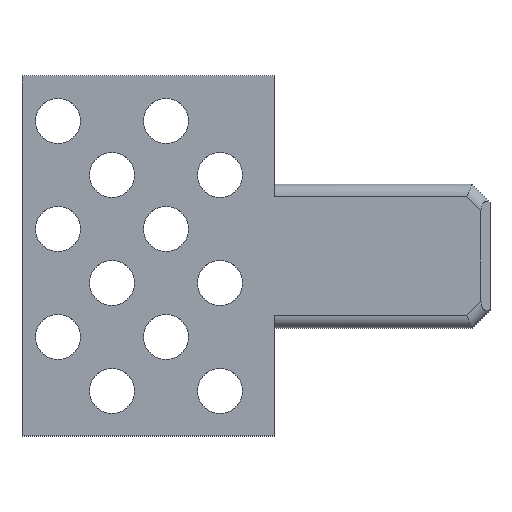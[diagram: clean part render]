
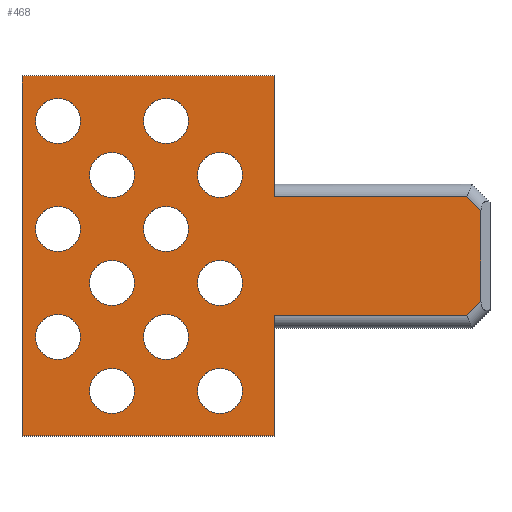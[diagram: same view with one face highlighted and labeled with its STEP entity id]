
A CAD part, top view. The second image highlights one B-rep face of the part: STEP entity #468.
In plain terms, the highlighted planar face has unit normal (0, 0, 1).
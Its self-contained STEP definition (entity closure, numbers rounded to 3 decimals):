
#113 = VERTEX_POINT('',#114);
#114 = CARTESIAN_POINT('',(10.71,-3.3,1.2));
#121 = EDGE_CURVE('',#113,#122,#124,.T.);
#122 = VERTEX_POINT('',#123);
#123 = CARTESIAN_POINT('',(11.5,-2.51,1.2));
#124 = LINE('',#125,#126);
#125 = CARTESIAN_POINT('',(10.505,-3.505,1.2));
#126 = VECTOR('',#127,1.);
#127 = DIRECTION('',(0.707,0.707,0.));
#372 = EDGE_CURVE('',#122,#373,#375,.T.);
#373 = VERTEX_POINT('',#374);
#374 = CARTESIAN_POINT('',(11.5,2.51,1.2));
#375 = LINE('',#376,#377);
#376 = CARTESIAN_POINT('',(11.5,-3.,1.2));
#377 = VECTOR('',#378,1.);
#378 = DIRECTION('',(0.,1.,0.));
#425 = VERTEX_POINT('',#426);
#426 = CARTESIAN_POINT('',(10.71,3.3,1.2));
#433 = EDGE_CURVE('',#373,#425,#434,.T.);
#434 = LINE('',#435,#436);
#435 = CARTESIAN_POINT('',(11.005,3.005,1.2));
#436 = VECTOR('',#437,1.);
#437 = DIRECTION('',(-0.707,0.707,0.));
#448 = VERTEX_POINT('',#449);
#449 = CARTESIAN_POINT('',(0.,-3.3,1.2));
#458 = EDGE_CURVE('',#448,#113,#459,.T.);
#459 = LINE('',#460,#461);
#460 = CARTESIAN_POINT('',(0.,-3.3,1.2));
#461 = VECTOR('',#462,1.);
#462 = DIRECTION('',(1.,0.,0.));
#468 = ADVANCED_FACE('',(#469,#537,#548,#559,#570,#581,#592,#603,#614,
    #625,#636,#647,#658),#669,.T.);
#469 = FACE_BOUND('',#470,.T.);
#470 = EDGE_LOOP('',(#471,#472,#473,#481,#489,#497,#505,#513,#521,#529,
    #535,#536));
#471 = ORIENTED_EDGE('',*,*,#372,.T.);
#472 = ORIENTED_EDGE('',*,*,#433,.T.);
#473 = ORIENTED_EDGE('',*,*,#474,.T.);
#474 = EDGE_CURVE('',#425,#475,#477,.T.);
#475 = VERTEX_POINT('',#476);
#476 = CARTESIAN_POINT('',(0.,3.3,1.2));
#477 = LINE('',#478,#479);
#478 = CARTESIAN_POINT('',(11.,3.3,1.2));
#479 = VECTOR('',#480,1.);
#480 = DIRECTION('',(-1.,0.,0.));
#481 = ORIENTED_EDGE('',*,*,#482,.F.);
#482 = EDGE_CURVE('',#483,#475,#485,.T.);
#483 = VERTEX_POINT('',#484);
#484 = CARTESIAN_POINT('',(0.,4.,1.2));
#485 = LINE('',#486,#487);
#486 = CARTESIAN_POINT('',(0.,2.,1.2));
#487 = VECTOR('',#488,1.);
#488 = DIRECTION('',(0.,-1.,0.));
#489 = ORIENTED_EDGE('',*,*,#490,.T.);
#490 = EDGE_CURVE('',#483,#491,#493,.T.);
#491 = VERTEX_POINT('',#492);
#492 = CARTESIAN_POINT('',(0.,10.,1.2));
#493 = LINE('',#494,#495);
#494 = CARTESIAN_POINT('',(0.,4.,1.2));
#495 = VECTOR('',#496,1.);
#496 = DIRECTION('',(0.,1.,0.));
#497 = ORIENTED_EDGE('',*,*,#498,.T.);
#498 = EDGE_CURVE('',#491,#499,#501,.T.);
#499 = VERTEX_POINT('',#500);
#500 = CARTESIAN_POINT('',(-14.,10.,1.2));
#501 = LINE('',#502,#503);
#502 = CARTESIAN_POINT('',(0.,10.,1.2));
#503 = VECTOR('',#504,1.);
#504 = DIRECTION('',(-1.,0.,0.));
#505 = ORIENTED_EDGE('',*,*,#506,.T.);
#506 = EDGE_CURVE('',#499,#507,#509,.T.);
#507 = VERTEX_POINT('',#508);
#508 = CARTESIAN_POINT('',(-14.,-10.,1.2));
#509 = LINE('',#510,#511);
#510 = CARTESIAN_POINT('',(-14.,10.,1.2));
#511 = VECTOR('',#512,1.);
#512 = DIRECTION('',(0.,-1.,0.));
#513 = ORIENTED_EDGE('',*,*,#514,.T.);
#514 = EDGE_CURVE('',#507,#515,#517,.T.);
#515 = VERTEX_POINT('',#516);
#516 = CARTESIAN_POINT('',(0.,-10.,1.2));
#517 = LINE('',#518,#519);
#518 = CARTESIAN_POINT('',(-14.,-10.,1.2));
#519 = VECTOR('',#520,1.);
#520 = DIRECTION('',(1.,0.,0.));
#521 = ORIENTED_EDGE('',*,*,#522,.T.);
#522 = EDGE_CURVE('',#515,#523,#525,.T.);
#523 = VERTEX_POINT('',#524);
#524 = CARTESIAN_POINT('',(0.,-4.,1.2));
#525 = LINE('',#526,#527);
#526 = CARTESIAN_POINT('',(0.,-10.,1.2));
#527 = VECTOR('',#528,1.);
#528 = DIRECTION('',(0.,1.,0.));
#529 = ORIENTED_EDGE('',*,*,#530,.T.);
#530 = EDGE_CURVE('',#523,#448,#531,.T.);
#531 = LINE('',#532,#533);
#532 = CARTESIAN_POINT('',(0.,-5.,1.2));
#533 = VECTOR('',#534,1.);
#534 = DIRECTION('',(0.,1.,0.));
#535 = ORIENTED_EDGE('',*,*,#458,.T.);
#536 = ORIENTED_EDGE('',*,*,#121,.T.);
#537 = FACE_BOUND('',#538,.T.);
#538 = EDGE_LOOP('',(#539));
#539 = ORIENTED_EDGE('',*,*,#540,.T.);
#540 = EDGE_CURVE('',#541,#541,#543,.T.);
#541 = VERTEX_POINT('',#542);
#542 = CARTESIAN_POINT('',(-10.75,-4.5,1.2));
#543 = CIRCLE('',#544,1.25);
#544 = AXIS2_PLACEMENT_3D('',#545,#546,#547);
#545 = CARTESIAN_POINT('',(-12.,-4.5,1.2));
#546 = DIRECTION('',(0.,0.,-1.));
#547 = DIRECTION('',(1.,0.,0.));
#548 = FACE_BOUND('',#549,.T.);
#549 = EDGE_LOOP('',(#550));
#550 = ORIENTED_EDGE('',*,*,#551,.T.);
#551 = EDGE_CURVE('',#552,#552,#554,.T.);
#552 = VERTEX_POINT('',#553);
#553 = CARTESIAN_POINT('',(-7.75,-7.5,1.2));
#554 = CIRCLE('',#555,1.25);
#555 = AXIS2_PLACEMENT_3D('',#556,#557,#558);
#556 = CARTESIAN_POINT('',(-9.,-7.5,1.2));
#557 = DIRECTION('',(0.,0.,-1.));
#558 = DIRECTION('',(1.,0.,0.));
#559 = FACE_BOUND('',#560,.T.);
#560 = EDGE_LOOP('',(#561));
#561 = ORIENTED_EDGE('',*,*,#562,.T.);
#562 = EDGE_CURVE('',#563,#563,#565,.T.);
#563 = VERTEX_POINT('',#564);
#564 = CARTESIAN_POINT('',(-7.75,-1.5,1.2));
#565 = CIRCLE('',#566,1.25);
#566 = AXIS2_PLACEMENT_3D('',#567,#568,#569);
#567 = CARTESIAN_POINT('',(-9.,-1.5,1.2));
#568 = DIRECTION('',(0.,0.,-1.));
#569 = DIRECTION('',(1.,0.,0.));
#570 = FACE_BOUND('',#571,.T.);
#571 = EDGE_LOOP('',(#572));
#572 = ORIENTED_EDGE('',*,*,#573,.T.);
#573 = EDGE_CURVE('',#574,#574,#576,.T.);
#574 = VERTEX_POINT('',#575);
#575 = CARTESIAN_POINT('',(-4.75,-4.5,1.2));
#576 = CIRCLE('',#577,1.25);
#577 = AXIS2_PLACEMENT_3D('',#578,#579,#580);
#578 = CARTESIAN_POINT('',(-6.,-4.5,1.2));
#579 = DIRECTION('',(0.,0.,-1.));
#580 = DIRECTION('',(1.,0.,0.));
#581 = FACE_BOUND('',#582,.T.);
#582 = EDGE_LOOP('',(#583));
#583 = ORIENTED_EDGE('',*,*,#584,.T.);
#584 = EDGE_CURVE('',#585,#585,#587,.T.);
#585 = VERTEX_POINT('',#586);
#586 = CARTESIAN_POINT('',(-1.75,-7.5,1.2));
#587 = CIRCLE('',#588,1.25);
#588 = AXIS2_PLACEMENT_3D('',#589,#590,#591);
#589 = CARTESIAN_POINT('',(-3.,-7.5,1.2));
#590 = DIRECTION('',(0.,0.,-1.));
#591 = DIRECTION('',(1.,0.,0.));
#592 = FACE_BOUND('',#593,.T.);
#593 = EDGE_LOOP('',(#594));
#594 = ORIENTED_EDGE('',*,*,#595,.T.);
#595 = EDGE_CURVE('',#596,#596,#598,.T.);
#596 = VERTEX_POINT('',#597);
#597 = CARTESIAN_POINT('',(-1.75,-1.5,1.2));
#598 = CIRCLE('',#599,1.25);
#599 = AXIS2_PLACEMENT_3D('',#600,#601,#602);
#600 = CARTESIAN_POINT('',(-3.,-1.5,1.2));
#601 = DIRECTION('',(0.,0.,-1.));
#602 = DIRECTION('',(1.,0.,0.));
#603 = FACE_BOUND('',#604,.T.);
#604 = EDGE_LOOP('',(#605));
#605 = ORIENTED_EDGE('',*,*,#606,.T.);
#606 = EDGE_CURVE('',#607,#607,#609,.T.);
#607 = VERTEX_POINT('',#608);
#608 = CARTESIAN_POINT('',(-10.75,1.5,1.2));
#609 = CIRCLE('',#610,1.25);
#610 = AXIS2_PLACEMENT_3D('',#611,#612,#613);
#611 = CARTESIAN_POINT('',(-12.,1.5,1.2));
#612 = DIRECTION('',(0.,0.,-1.));
#613 = DIRECTION('',(1.,0.,0.));
#614 = FACE_BOUND('',#615,.T.);
#615 = EDGE_LOOP('',(#616));
#616 = ORIENTED_EDGE('',*,*,#617,.T.);
#617 = EDGE_CURVE('',#618,#618,#620,.T.);
#618 = VERTEX_POINT('',#619);
#619 = CARTESIAN_POINT('',(-10.75,7.5,1.2));
#620 = CIRCLE('',#621,1.25);
#621 = AXIS2_PLACEMENT_3D('',#622,#623,#624);
#622 = CARTESIAN_POINT('',(-12.,7.5,1.2));
#623 = DIRECTION('',(0.,0.,-1.));
#624 = DIRECTION('',(1.,0.,0.));
#625 = FACE_BOUND('',#626,.T.);
#626 = EDGE_LOOP('',(#627));
#627 = ORIENTED_EDGE('',*,*,#628,.T.);
#628 = EDGE_CURVE('',#629,#629,#631,.T.);
#629 = VERTEX_POINT('',#630);
#630 = CARTESIAN_POINT('',(-7.75,4.5,1.2));
#631 = CIRCLE('',#632,1.25);
#632 = AXIS2_PLACEMENT_3D('',#633,#634,#635);
#633 = CARTESIAN_POINT('',(-9.,4.5,1.2));
#634 = DIRECTION('',(0.,0.,-1.));
#635 = DIRECTION('',(1.,0.,0.));
#636 = FACE_BOUND('',#637,.T.);
#637 = EDGE_LOOP('',(#638));
#638 = ORIENTED_EDGE('',*,*,#639,.T.);
#639 = EDGE_CURVE('',#640,#640,#642,.T.);
#640 = VERTEX_POINT('',#641);
#641 = CARTESIAN_POINT('',(-4.75,1.5,1.2));
#642 = CIRCLE('',#643,1.25);
#643 = AXIS2_PLACEMENT_3D('',#644,#645,#646);
#644 = CARTESIAN_POINT('',(-6.,1.5,1.2));
#645 = DIRECTION('',(0.,0.,-1.));
#646 = DIRECTION('',(1.,0.,0.));
#647 = FACE_BOUND('',#648,.T.);
#648 = EDGE_LOOP('',(#649));
#649 = ORIENTED_EDGE('',*,*,#650,.T.);
#650 = EDGE_CURVE('',#651,#651,#653,.T.);
#651 = VERTEX_POINT('',#652);
#652 = CARTESIAN_POINT('',(-4.75,7.5,1.2));
#653 = CIRCLE('',#654,1.25);
#654 = AXIS2_PLACEMENT_3D('',#655,#656,#657);
#655 = CARTESIAN_POINT('',(-6.,7.5,1.2));
#656 = DIRECTION('',(0.,0.,-1.));
#657 = DIRECTION('',(1.,0.,0.));
#658 = FACE_BOUND('',#659,.T.);
#659 = EDGE_LOOP('',(#660));
#660 = ORIENTED_EDGE('',*,*,#661,.T.);
#661 = EDGE_CURVE('',#662,#662,#664,.T.);
#662 = VERTEX_POINT('',#663);
#663 = CARTESIAN_POINT('',(-1.75,4.5,1.2));
#664 = CIRCLE('',#665,1.25);
#665 = AXIS2_PLACEMENT_3D('',#666,#667,#668);
#666 = CARTESIAN_POINT('',(-3.,4.5,1.2));
#667 = DIRECTION('',(0.,0.,-1.));
#668 = DIRECTION('',(1.,0.,0.));
#669 = PLANE('',#670);
#670 = AXIS2_PLACEMENT_3D('',#671,#672,#673);
#671 = CARTESIAN_POINT('',(-2.565,0.,1.2));
#672 = DIRECTION('',(0.,0.,1.));
#673 = DIRECTION('',(1.,0.,0.));
